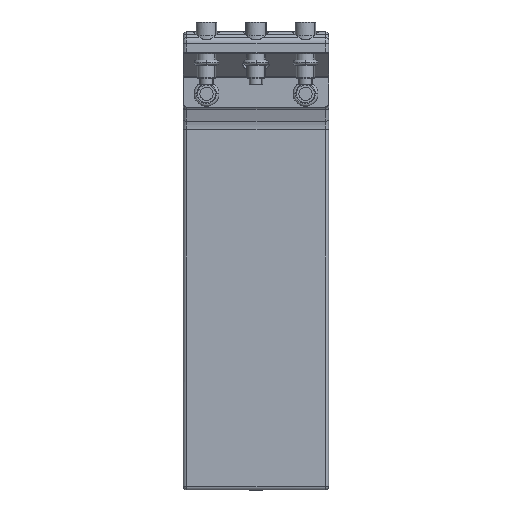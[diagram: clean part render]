
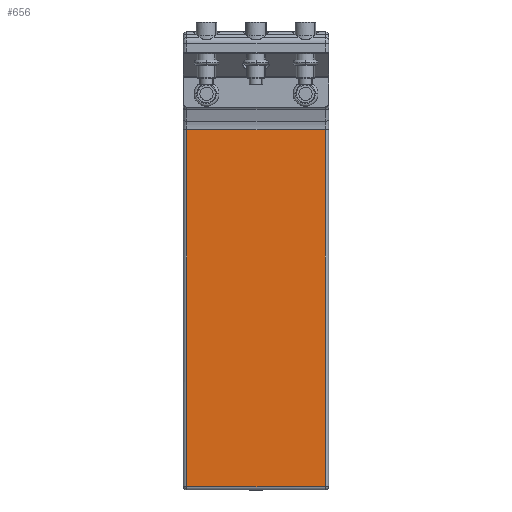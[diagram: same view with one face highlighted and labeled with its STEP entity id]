
A CAD part, top view. The second image highlights one B-rep face of the part: STEP entity #656.
In plain terms, the highlighted planar face has unit normal (0, 0, 1).
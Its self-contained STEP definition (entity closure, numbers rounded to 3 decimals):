
#656=ADVANCED_FACE('5252149.1_Seitenanbindung Rippe aussen SW50',(#1519),#1520,.T.);
#1519=FACE_OUTER_BOUND('',#2689,.T.);
#1520=PLANE('',#2690);
#2689=EDGE_LOOP('',(#4672,#4673,#4674,#4675));
#2690=AXIS2_PLACEMENT_3D('',#4676,#4677,#4678);
#4672=ORIENTED_EDGE('',*,*,#7284,.F.);
#4673=ORIENTED_EDGE('',*,*,#7243,.F.);
#4674=ORIENTED_EDGE('',*,*,#7297,.T.);
#4675=ORIENTED_EDGE('',*,*,#7298,.T.);
#4676=CARTESIAN_POINT('',(0.0,-21.709,-30.0));
#4677=DIRECTION('',(0.0,0.0,1.0));
#4678=DIRECTION('',(1.0,0.0,0.0));
#7243=EDGE_CURVE('',#8617,#8473,#8619,.T.);
#7284=EDGE_CURVE('',#8473,#8676,#8677,.T.);
#7297=EDGE_CURVE('',#8617,#8694,#8695,.T.);
#7298=EDGE_CURVE('',#8694,#8676,#8696,.T.);
#8473=VERTEX_POINT('',#11268);
#8617=VERTEX_POINT('',#11793);
#8619=B_SPLINE_CURVE_WITH_KNOTS('',1,(#11804,#11805),.UNSPECIFIED.,.F.,.F.,(2,2),(0.0,1.0),.UNSPECIFIED.);
#8676=VERTEX_POINT('',#12025);
#8677=B_SPLINE_CURVE_WITH_KNOTS('',1,(#12026,#12027),.UNSPECIFIED.,.F.,.F.,(2,2),(0.,1.0),.UNSPECIFIED.);
#8694=VERTEX_POINT('',#12076);
#8695=B_SPLINE_CURVE_WITH_KNOTS('',1,(#12077,#12078),.UNSPECIFIED.,.F.,.F.,(2,2),(0.,1.0),.UNSPECIFIED.);
#8696=B_SPLINE_CURVE_WITH_KNOTS('',1,(#12079,#12080),.UNSPECIFIED.,.F.,.F.,(2,2),(0.0,1.0),.UNSPECIFIED.);
#11268=CARTESIAN_POINT('',(42.0,-21.709,-30.));
#11793=CARTESIAN_POINT('',(-42.0,-21.709,-30.));
#11804=CARTESIAN_POINT('',(-42.,-21.709,-30.));
#11805=CARTESIAN_POINT('',(42.,-21.709,-30.));
#12025=CARTESIAN_POINT('',(42.0,-238.0,-30.0));
#12026=CARTESIAN_POINT('',(42.0,-21.709,-30.0));
#12027=CARTESIAN_POINT('',(42.0,-238.0,-30.0));
#12076=CARTESIAN_POINT('',(-42.0,-238.0,-30.0));
#12077=CARTESIAN_POINT('',(-42.0,-21.709,-30.0));
#12078=CARTESIAN_POINT('',(-42.0,-238.0,-30.0));
#12079=CARTESIAN_POINT('',(-42.0,-238.0,-30.0));
#12080=CARTESIAN_POINT('',(42.0,-238.0,-30.0));
